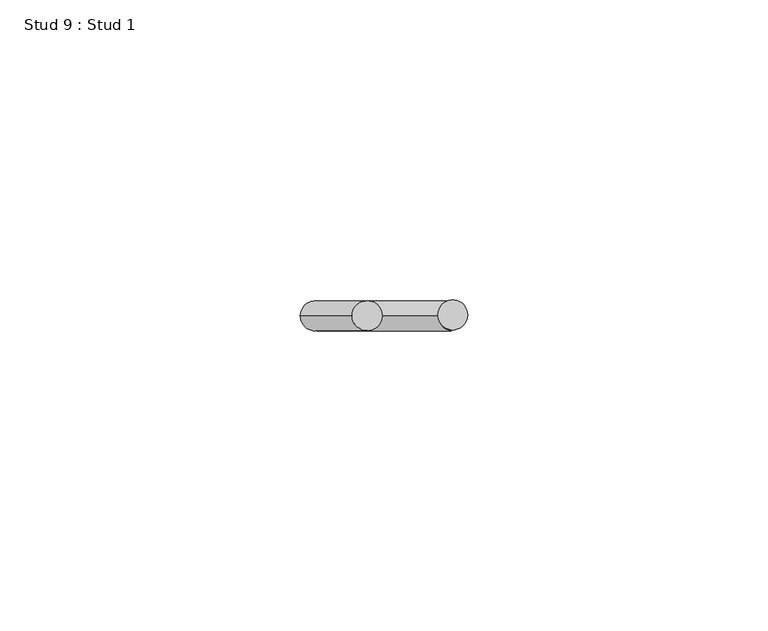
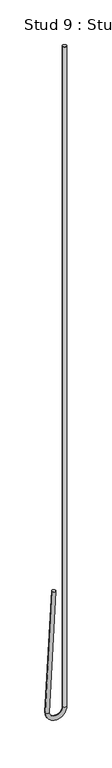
"""IFC4 building model written with IfcOpenShell, lengths in millimetres: proxy geometry, Stud 9 : Stud 1."""

from ifc_helpers import new_model, si_unit, point, frame, origin, place, context, project, spatial, circle_curve, ellipse_curve, trimmed, source, transform, mapped, element, save
from ifc_brep_helpers import plane_surface, cylinder_surface, revolved_surface, advanced_brep


def stud_9_stud_1_8950ac6e(model_context):
    return source(origin(), model_context, "Body", "AdvancedBrep", [
        advanced_brep(
        [(-10978.2326538, 12082.5191481, 3640.800192), (-10973.2395061, 12082.5191481, 3640.5385122), (-10986.8733201, 12082.5191481, 3475.9264558), (-10981.8801725, 12082.5191481, 3475.664776), (-10963.9714562, 12082.5191481, 3475.7956159), (-10958.9714562, 12082.5191481, 3475.7956159), (-10958.9714562, 12082.5191481, 4390.1956159), (-10963.9714562, 12082.5191481, 4390.1956159)],
        [
            (0, 1, circle_curve(frame((-10975.7360799, 12082.5191481, 3640.6693521), z_axis=(0.05233595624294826, 0.0, 0.9986295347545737), x_axis=(0.9986295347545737, 0.0, -0.05233595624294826)), 2.5)),
            (1, 0, circle_curve(frame((-10975.7360799, 12082.5191481, 3640.6693521), z_axis=(0.05233595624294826, 0.0, 0.9986295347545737), x_axis=(0.9986295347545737, 0.0, -0.05233595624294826)), 2.5)),
            (0, 2),
            (2, 3, circle_curve(frame((-10984.3767463, 12082.5191481, 3475.7956159), z_axis=(0.05233595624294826, 0.0, 0.9986295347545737), x_axis=(0.9986295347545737, 0.0, -0.05233595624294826)), 2.5)),
            (3, 1),
            (3, 2, circle_curve(frame((-10984.3767463, 12082.5191481, 3475.7956159), z_axis=(0.05233595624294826, 0.0, 0.9986295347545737), x_axis=(0.9986295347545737, 0.0, -0.05233595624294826)), 2.5)),
            (4, 3, circle_curve(frame((-10972.9241013, 12082.5191481, 3475.7956159), z_axis=(0.0, 1.0, 0.0), x_axis=(-1.0, 0.0, 0.0)), 8.952645)),
            (2, 5, circle_curve(frame((-10972.9241013, 12082.5191481, 3475.7956159), z_axis=(0.0, -1.0, 0.0), x_axis=(-1.0, 0.0, 0.0)), 13.952645)),
            (5, 4, circle_curve(frame((-10961.4714562, 12082.5191481, 3475.7956159), z_axis=(0.0, 0.0, -1.0), x_axis=(-1.0, 0.0, 0.0)), 2.5)),
            (4, 5, circle_curve(frame((-10961.4714562, 12082.5191481, 3475.7956159), z_axis=(0.0, 0.0, -1.0), x_axis=(-1.0, 0.0, 0.0)), 2.5)),
            (6, 7, circle_curve(frame((-10961.4714562, 12082.5191481, 4390.1956159), z_axis=(0.0, 0.0, 1.0), x_axis=(-1.0, 0.0, 0.0)), 2.5)),
            (7, 6, circle_curve(frame((-10961.4714562, 12082.5191481, 4390.1956159), z_axis=(0.0, 0.0, 1.0), x_axis=(-1.0, 0.0, 0.0)), 2.5)),
            (5, 6),
            (7, 4),
        ],
        [
            plane_surface(frame((-10975.7360799, 12676.2441481, 3640.6693521), z_axis=(0.05233595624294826, 0.0, 0.9986295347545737), x_axis=(0.0, -1.0, 0.0))),
            cylinder_surface(frame((-10975.7360799, 12082.5191481, 3640.6693521), z_axis=(0.05233595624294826, 0.0, 0.9986295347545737), x_axis=(0.9986295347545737, 0.0, -0.05233595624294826)), 2.5),
            revolved_surface(trimmed(ellipse_curve(frame((-10984.3767463, 12082.5191481, 3475.7956159), z_axis=(0.0, 0.0, 1.0), x_axis=(1.0, 0.0, 0.0)), 2.5, 2.5), [point((-10986.8767463, 12082.5191481, 3475.7956159))], [point((-10981.8767463, 12082.5191481, 3475.7956159))], True, "CARTESIAN"), (-10972.9241013, 12676.2441481, 3475.7956159), (0.0, -1.0, 0.0)),
            revolved_surface(trimmed(ellipse_curve(frame((-10984.3767463, 12082.5191481, 3475.7956159), z_axis=(0.0, 0.0, 1.0), x_axis=(1.0, 0.0, 0.0)), 2.5, 2.5), [point((-10981.8767463, 12082.5191481, 3475.7956159))], [point((-10986.8767463, 12082.5191481, 3475.7956159))], True, "CARTESIAN"), (-10972.9241013, 12676.2441481, 3475.7956159), (0.0, -1.0, 0.0)),
            plane_surface(frame((-10961.4714562, 12676.2441481, 4390.1956159), z_axis=(0.0, 0.0, 1.0), x_axis=(0.0, -1.0, 0.0))),
            cylinder_surface(frame((-10961.4714562, 12082.5191481, 3475.7956159), z_axis=(0.0, 0.0, -1.0), x_axis=(-1.0, 0.0, 0.0)), 2.5),
        ],
        [
            (0, [[1, 2]]),
            (1, [[-1, 3, 4, 5]]),
            (1, [[-2, -5, 6, -3]]),
            (2, [[7, -4, 8, 9]]),
            (3, [[-8, -6, -7, 10]]),
            (4, [[11, 12]]),
            (5, [[-9, 13, -12, 14]]),
            (5, [[-10, -14, -11, -13]]),
        ],
    ),
    ])


if __name__ == "__main__":
    model = new_model("IFC4")
    model_context = context("Model", 3, world=origin())
    ifc_project = project(units=[si_unit("LENGTHUNIT", "METRE", prefix="MILLI")], contexts=[model_context])
    site = spatial("IfcSite", under=ifc_project)
    building = spatial("IfcBuilding", under=site)
    placement = place(None, origin())
    stud_9_stud_1_shape = stud_9_stud_1_8950ac6e(model_context)
    element("IfcBuildingElementProxy", 1, Name="Stud 9 : Stud 1", ObjectType="Stud 9 : Stud 1", at=placement, inside=building, context=model_context, shape_type="MappedRepresentation", body=[
        mapped(stud_9_stud_1_shape, transform((0.0, 0.0, 0.0), x_axis=(1.0, 0.0, 0.0), y_axis=(0.0, 1.0, 0.0), z_axis=(0.0, 0.0, 1.0))),
    ])
    save(model, "model.ifc")
